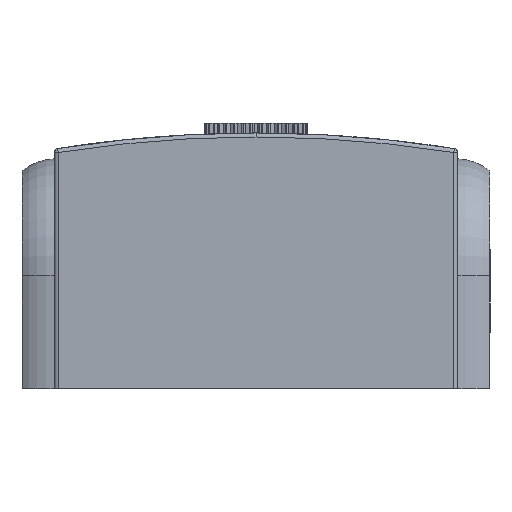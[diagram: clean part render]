
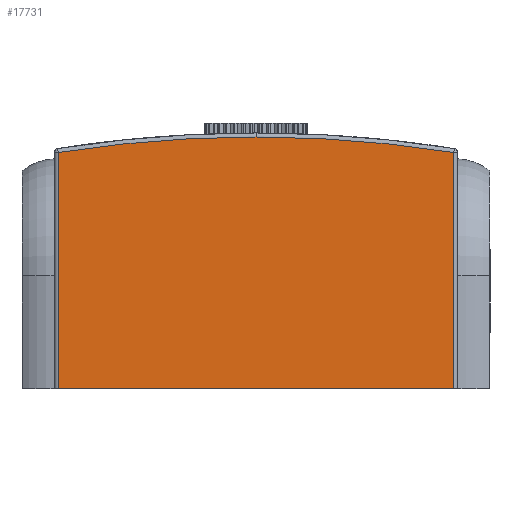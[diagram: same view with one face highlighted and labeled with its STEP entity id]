
A CAD part, front view. The second image highlights one B-rep face of the part: STEP entity #17731.
In plain terms, the highlighted planar face has unit normal (0, -1, 0).
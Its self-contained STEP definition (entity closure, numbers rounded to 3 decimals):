
#162 = CARTESIAN_POINT ( 'NONE',  ( -24.5, -26., 0. ) ) ;
#1395 = CARTESIAN_POINT ( 'NONE',  ( 0., -26., -125.6 ) ) ;
#1478 = ORIENTED_EDGE ( 'NONE', *, *, #23683, .F. ) ;
#1648 = EDGE_CURVE ( 'NONE', #10231, #15417, #8259, .T. ) ;
#1954 = CARTESIAN_POINT ( 'NONE',  ( 24.5, -26., 0. ) ) ;
#2954 = VECTOR ( 'NONE', #19506, 1000. ) ;
#3139 = CARTESIAN_POINT ( 'NONE',  ( 24.5, -26., 31.7 ) ) ;
#3238 = VERTEX_POINT ( 'NONE', #20788 ) ;
#4268 = CARTESIAN_POINT ( 'NONE',  ( 24.5, -26., 0. ) ) ;
#5087 = FACE_OUTER_BOUND ( 'NONE', #21952, .T. ) ;
#5376 = DIRECTION ( 'NONE',  ( 0., -1., 0. ) ) ;
#5476 = VERTEX_POINT ( 'NONE', #17124 ) ;
#6153 = DIRECTION ( 'NONE',  ( 0., 0., -1. ) ) ;
#7301 = EDGE_CURVE ( 'NONE', #18599, #5476, #8310, .T. ) ;
#8259 = LINE ( 'NONE', #4268, #2954 ) ;
#8310 = CIRCLE ( 'NONE', #22615, 156.8 ) ;
#8470 = DIRECTION ( 'NONE',  ( 0., 0., 1. ) ) ;
#9063 = AXIS2_PLACEMENT_3D ( 'NONE', #1395, #20637, #20506 ) ;
#9492 = CARTESIAN_POINT ( 'NONE',  ( 0., -26., -125.6 ) ) ;
#10231 = VERTEX_POINT ( 'NONE', #162 ) ;
#11005 = CIRCLE ( 'NONE', #9063, 156.8 ) ;
#12160 = CARTESIAN_POINT ( 'NONE',  ( -24.5, -26., 31.7 ) ) ;
#12260 = ORIENTED_EDGE ( 'NONE', *, *, #17081, .T. ) ;
#12367 = AXIS2_PLACEMENT_3D ( 'NONE', #3139, #23346, #8470 ) ;
#12601 = PLANE ( 'NONE',  #12367 ) ;
#13537 = CARTESIAN_POINT ( 'NONE',  ( 24.5, -26., 31.7 ) ) ;
#13620 = CARTESIAN_POINT ( 'NONE',  ( 0., -26., 31.2 ) ) ;
#13676 = VECTOR ( 'NONE', #6153, 1000. ) ;
#14096 = LINE ( 'NONE', #12160, #17598 ) ;
#15417 = VERTEX_POINT ( 'NONE', #1954 ) ;
#16856 = EDGE_CURVE ( 'NONE', #3238, #18599, #11005, .T. ) ;
#17081 = EDGE_CURVE ( 'NONE', #5476, #10231, #14096, .T. ) ;
#17124 = CARTESIAN_POINT ( 'NONE',  ( -24.5, -26., 29.274 ) ) ;
#17598 = VECTOR ( 'NONE', #21332, 1000. ) ;
#17731 = ADVANCED_FACE ( 'NONE', ( #5087 ), #12601, .F. ) ;
#18599 = VERTEX_POINT ( 'NONE', #13620 ) ;
#18847 = LINE ( 'NONE', #13537, #13676 ) ;
#19506 = DIRECTION ( 'NONE',  ( 1., 0., 0. ) ) ;
#20052 = ORIENTED_EDGE ( 'NONE', *, *, #7301, .T. ) ;
#20506 = DIRECTION ( 'NONE',  ( 0., 0., 1. ) ) ;
#20637 = DIRECTION ( 'NONE',  ( 0., -1., 0. ) ) ;
#20788 = CARTESIAN_POINT ( 'NONE',  ( 24.5, -26., 29.274 ) ) ;
#21090 = ORIENTED_EDGE ( 'NONE', *, *, #1648, .T. ) ;
#21332 = DIRECTION ( 'NONE',  ( 0., 0., -1. ) ) ;
#21952 = EDGE_LOOP ( 'NONE', ( #1478, #21980, #20052, #12260, #21090 ) ) ;
#21980 = ORIENTED_EDGE ( 'NONE', *, *, #16856, .T. ) ;
#22304 = DIRECTION ( 'NONE',  ( 0., 0., 1. ) ) ;
#22615 = AXIS2_PLACEMENT_3D ( 'NONE', #9492, #5376, #22304 ) ;
#23346 = DIRECTION ( 'NONE',  ( 0., 1., 0. ) ) ;
#23683 = EDGE_CURVE ( 'NONE', #3238, #15417, #18847, .T. ) ;
